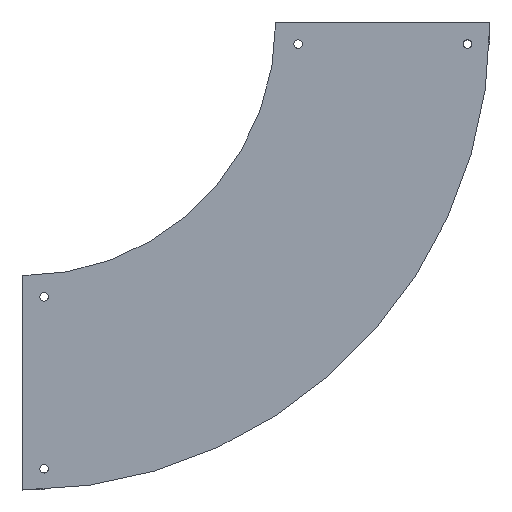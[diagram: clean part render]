
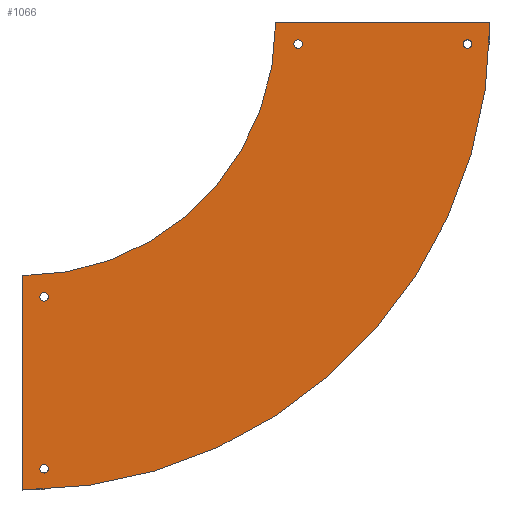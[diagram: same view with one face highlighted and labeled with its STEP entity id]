
A CAD part, top view. The second image highlights one B-rep face of the part: STEP entity #1066.
In plain terms, the highlighted planar face has unit normal (0, 0, 1).
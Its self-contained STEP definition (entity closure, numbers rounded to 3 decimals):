
#49=FACE_BOUND('',#205,.T.);
#50=FACE_BOUND('',#206,.T.);
#51=FACE_BOUND('',#207,.T.);
#52=FACE_BOUND('',#208,.T.);
#63=CIRCLE('',#1156,298.5);
#64=CIRCLE('',#1157,551.5);
#65=CIRCLE('',#1158,5.);
#66=CIRCLE('',#1159,5.);
#67=CIRCLE('',#1160,5.);
#68=CIRCLE('',#1161,5.);
#69=CIRCLE('',#1162,5.);
#70=CIRCLE('',#1163,5.);
#71=CIRCLE('',#1164,5.);
#72=CIRCLE('',#1165,5.);
#134=FACE_OUTER_BOUND('',#204,.T.);
#204=EDGE_LOOP('',(#826,#827,#828,#829,#830,#831,#832,#833));
#205=EDGE_LOOP('',(#834,#835));
#206=EDGE_LOOP('',(#836,#837));
#207=EDGE_LOOP('',(#838,#839));
#208=EDGE_LOOP('',(#840,#841));
#297=LINE('',#1670,#405);
#298=LINE('',#1673,#406);
#306=LINE('',#1708,#414);
#307=LINE('',#1713,#415);
#308=LINE('',#1715,#416);
#309=LINE('',#1717,#417);
#405=VECTOR('',#1333,304.8);
#406=VECTOR('',#1336,304.8);
#414=VECTOR('',#1368,304.8);
#415=VECTOR('',#1373,304.8);
#416=VECTOR('',#1374,304.8);
#417=VECTOR('',#1375,304.8);
#494=VERTEX_POINT('',#1663);
#497=VERTEX_POINT('',#1668);
#498=VERTEX_POINT('',#1672);
#513=VERTEX_POINT('',#1706);
#514=VERTEX_POINT('',#1710);
#515=VERTEX_POINT('',#1712);
#516=VERTEX_POINT('',#1714);
#517=VERTEX_POINT('',#1716);
#518=VERTEX_POINT('',#1719);
#519=VERTEX_POINT('',#1720);
#520=VERTEX_POINT('',#1723);
#521=VERTEX_POINT('',#1724);
#522=VERTEX_POINT('',#1727);
#523=VERTEX_POINT('',#1728);
#524=VERTEX_POINT('',#1731);
#525=VERTEX_POINT('',#1732);
#609=EDGE_CURVE('',#497,#494,#297,.T.);
#610=EDGE_CURVE('',#494,#498,#298,.T.);
#628=EDGE_CURVE('',#513,#497,#306,.T.);
#629=EDGE_CURVE('',#513,#514,#63,.T.);
#630=EDGE_CURVE('',#514,#515,#307,.T.);
#631=EDGE_CURVE('',#515,#516,#308,.T.);
#632=EDGE_CURVE('',#516,#517,#309,.T.);
#633=EDGE_CURVE('',#517,#498,#64,.T.);
#634=EDGE_CURVE('',#518,#519,#65,.T.);
#635=EDGE_CURVE('',#519,#518,#66,.T.);
#636=EDGE_CURVE('',#520,#521,#67,.T.);
#637=EDGE_CURVE('',#521,#520,#68,.T.);
#638=EDGE_CURVE('',#522,#523,#69,.T.);
#639=EDGE_CURVE('',#523,#522,#70,.T.);
#640=EDGE_CURVE('',#524,#525,#71,.T.);
#641=EDGE_CURVE('',#525,#524,#72,.T.);
#826=ORIENTED_EDGE('',*,*,#609,.F.);
#827=ORIENTED_EDGE('',*,*,#628,.F.);
#828=ORIENTED_EDGE('',*,*,#629,.T.);
#829=ORIENTED_EDGE('',*,*,#630,.T.);
#830=ORIENTED_EDGE('',*,*,#631,.T.);
#831=ORIENTED_EDGE('',*,*,#632,.T.);
#832=ORIENTED_EDGE('',*,*,#633,.T.);
#833=ORIENTED_EDGE('',*,*,#610,.F.);
#834=ORIENTED_EDGE('',*,*,#634,.T.);
#835=ORIENTED_EDGE('',*,*,#635,.T.);
#836=ORIENTED_EDGE('',*,*,#636,.T.);
#837=ORIENTED_EDGE('',*,*,#637,.T.);
#838=ORIENTED_EDGE('',*,*,#638,.T.);
#839=ORIENTED_EDGE('',*,*,#639,.T.);
#840=ORIENTED_EDGE('',*,*,#640,.T.);
#841=ORIENTED_EDGE('',*,*,#641,.T.);
#1018=PLANE('',#1155);
#1066=ADVANCED_FACE('',(#134,#49,#50,#51,#52),#1018,.T.);
#1155=AXIS2_PLACEMENT_3D('',#1709,#1369,#1370);
#1156=AXIS2_PLACEMENT_3D('',#1711,#1371,#1372);
#1157=AXIS2_PLACEMENT_3D('',#1718,#1376,#1377);
#1158=AXIS2_PLACEMENT_3D('',#1721,#1378,#1379);
#1159=AXIS2_PLACEMENT_3D('',#1722,#1380,#1381);
#1160=AXIS2_PLACEMENT_3D('',#1725,#1382,#1383);
#1161=AXIS2_PLACEMENT_3D('',#1726,#1384,#1385);
#1162=AXIS2_PLACEMENT_3D('',#1729,#1386,#1387);
#1163=AXIS2_PLACEMENT_3D('',#1730,#1388,#1389);
#1164=AXIS2_PLACEMENT_3D('',#1733,#1390,#1391);
#1165=AXIS2_PLACEMENT_3D('',#1734,#1392,#1393);
#1333=DIRECTION('',(1.,0.,0.));
#1336=DIRECTION('',(0.,-1.,0.));
#1368=DIRECTION('',(0.,1.,0.));
#1369=DIRECTION('center_axis',(0.,0.,1.));
#1370=DIRECTION('ref_axis',(0.,-1.,0.));
#1371=DIRECTION('center_axis',(0.,0.,-1.));
#1372=DIRECTION('ref_axis',(1.,0.,0.));
#1373=DIRECTION('',(-1.,0.,0.));
#1374=DIRECTION('',(0.,-1.,0.));
#1375=DIRECTION('',(1.,0.,0.));
#1376=DIRECTION('center_axis',(0.,0.,1.));
#1377=DIRECTION('ref_axis',(1.,0.,0.));
#1378=DIRECTION('center_axis',(0.,0.,-1.));
#1379=DIRECTION('ref_axis',(1.,0.,0.));
#1380=DIRECTION('center_axis',(0.,0.,-1.));
#1381=DIRECTION('ref_axis',(1.,0.,0.));
#1382=DIRECTION('center_axis',(0.,0.,-1.));
#1383=DIRECTION('ref_axis',(1.,0.,0.));
#1384=DIRECTION('center_axis',(0.,0.,-1.));
#1385=DIRECTION('ref_axis',(1.,0.,0.));
#1386=DIRECTION('center_axis',(0.,0.,-1.));
#1387=DIRECTION('ref_axis',(1.,0.,0.));
#1388=DIRECTION('center_axis',(0.,0.,-1.));
#1389=DIRECTION('ref_axis',(1.,0.,0.));
#1390=DIRECTION('center_axis',(0.,0.,-1.));
#1391=DIRECTION('ref_axis',(1.,0.,0.));
#1392=DIRECTION('center_axis',(0.,0.,-1.));
#1393=DIRECTION('ref_axis',(1.,0.,0.));
#1663=CARTESIAN_POINT('',(126.5,426.,1.5));
#1668=CARTESIAN_POINT('',(-126.5,426.,1.5));
#1670=CARTESIAN_POINT('',(-126.5,426.,1.5));
#1672=CARTESIAN_POINT('',(126.5,425.,1.5));
#1673=CARTESIAN_POINT('',(126.5,426.,1.5));
#1706=CARTESIAN_POINT('',(-126.5,425.,1.5));
#1708=CARTESIAN_POINT('',(-126.5,426.,1.5));
#1709=CARTESIAN_POINT('Origin',(-126.5,426.,1.5));
#1710=CARTESIAN_POINT('',(-425.,126.5,1.5));
#1711=CARTESIAN_POINT('Origin',(-425.,425.,1.5));
#1712=CARTESIAN_POINT('',(-426.,126.5,1.5));
#1713=CARTESIAN_POINT('',(-425.,126.5,1.5));
#1714=CARTESIAN_POINT('',(-426.,-126.5,1.5));
#1715=CARTESIAN_POINT('',(-426.,-126.5,1.5));
#1716=CARTESIAN_POINT('',(-425.,-126.5,1.5));
#1717=CARTESIAN_POINT('',(-425.,-126.5,1.5));
#1718=CARTESIAN_POINT('Origin',(-425.,425.,1.5));
#1719=CARTESIAN_POINT('',(-395.,101.5,1.5));
#1720=CARTESIAN_POINT('',(-405.,101.5,1.5));
#1721=CARTESIAN_POINT('Origin',(-400.,101.5,1.5));
#1722=CARTESIAN_POINT('Origin',(-400.,101.5,1.5));
#1723=CARTESIAN_POINT('',(-395.,-101.5,1.5));
#1724=CARTESIAN_POINT('',(-405.,-101.5,1.5));
#1725=CARTESIAN_POINT('Origin',(-400.,-101.5,1.5));
#1726=CARTESIAN_POINT('Origin',(-400.,-101.5,1.5));
#1727=CARTESIAN_POINT('',(-95.,400.,1.5));
#1728=CARTESIAN_POINT('',(-105.,400.,1.5));
#1729=CARTESIAN_POINT('Origin',(-100.,400.,1.5));
#1730=CARTESIAN_POINT('Origin',(-100.,400.,1.5));
#1731=CARTESIAN_POINT('',(105.,400.,1.5));
#1732=CARTESIAN_POINT('',(95.,400.,1.5));
#1733=CARTESIAN_POINT('Origin',(100.,400.,1.5));
#1734=CARTESIAN_POINT('Origin',(100.,400.,1.5));
